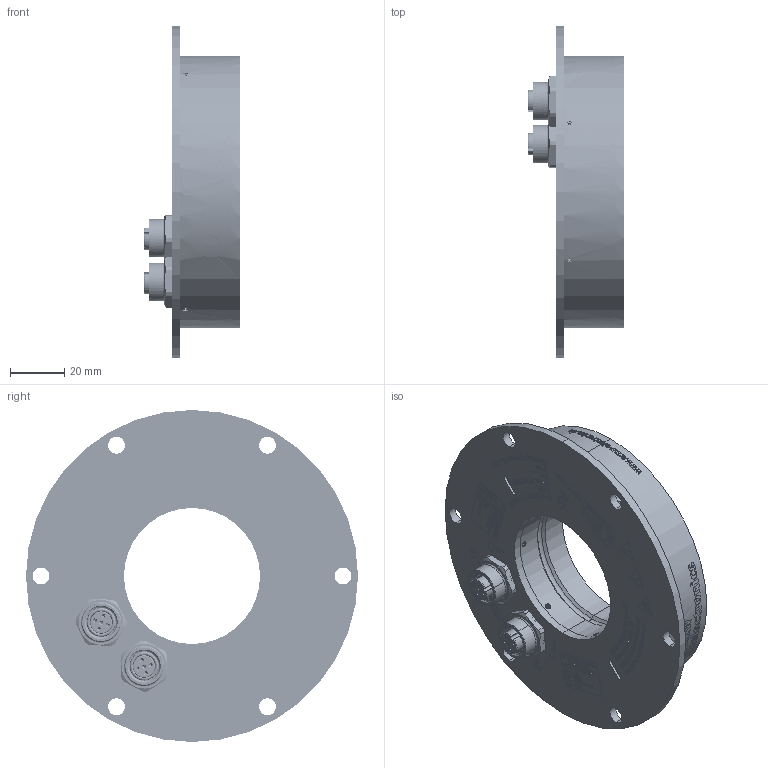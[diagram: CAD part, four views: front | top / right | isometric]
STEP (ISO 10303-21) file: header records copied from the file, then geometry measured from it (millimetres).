
FILE_DESCRIPTION (( 'STEP AP203' ), '1' );
FILE_NAME ('K0E012333_IC-REMOTE F100_50_zum_Versenden.STEP', '2023-12-22T07:23:38', ( '' ), ( '' ), 'SwSTEP 2.0', 'SolidWorks 2023', '' );
FILE_SCHEMA (( 'CONFIG_CONTROL_DESIGN' ));
Length unit declared in the file: millimetre
Products named in the file (1): K0E012333_IC-REMOTE F100_50_zum_Versenden
Bounding box: 35.34 x 122 x 122 mm (x, y, z)
Surface area: 71394.5 mm2 (no closed solid volume)
Topology: 0 solids, 57 shells, 5980 faces, 17318 edges, 11940 vertices
Faces by surface type: plane 3282, bspline 2012, cylinder 498, cone 172, torus 16
Entity records: 310553 total; most frequent: CARTESIAN_POINT 166968, ORIENTED_EDGE 33576, DIRECTION 21712, EDGE_CURVE 17302, VERTEX_POINT 11940, LINE 11044, VECTOR 11044, EDGE_LOOP 6718
